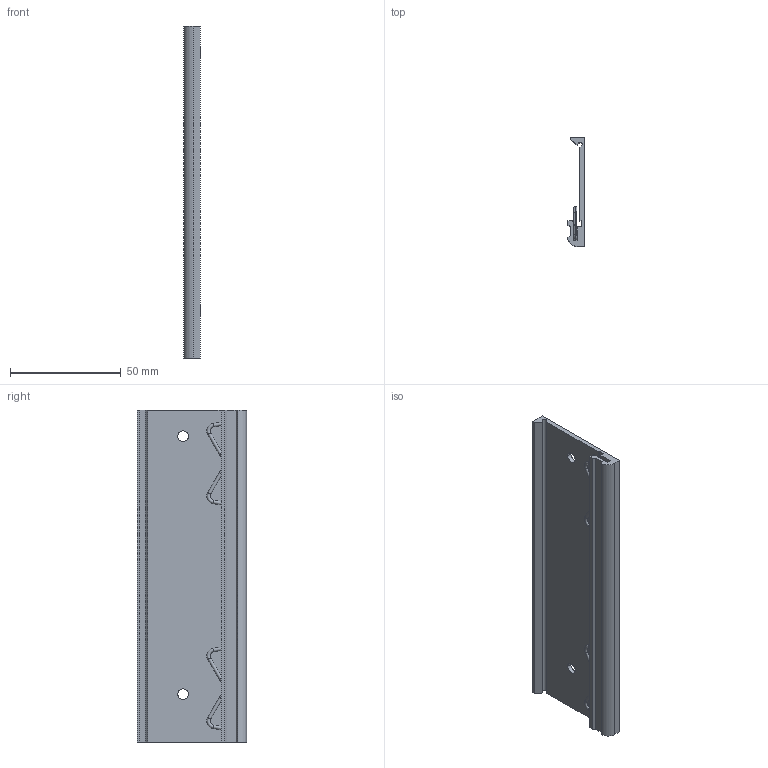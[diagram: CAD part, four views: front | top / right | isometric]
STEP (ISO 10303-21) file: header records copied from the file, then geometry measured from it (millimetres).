
FILE_DESCRIPTION((''),'2;1');
FILE_NAME('CU_DIN_SMASHER_4SLOT_W','2015-11-20T',('jbuhisan'),(''),'PRO/ENGINEER BY PARAMETRIC TECHNOLOGY CORPORATION, 2014000','PRO/ENGINEER BY PARAMETRIC TECHNOLOGY CORPORATION, 2014000','');
FILE_SCHEMA(('CONFIG_CONTROL_DESIGN'));
Length unit declared in the file: inch
Products named in the file (1): CU_DIN_SMASHER_4SLOT_W
Bounding box: 7.49 x 49.33 x 150 mm (x, y, z)
Volume: 21172.3 mm3; surface area: 22169.5 mm2
Topology: 3 solids, 3 shells, 76 faces, 170 edges, 100 vertices
Faces by surface type: cylinder 31, plane 25, torus 20
Entity records: 2140 total; most frequent: DIRECTION 404, CARTESIAN_POINT 346, ORIENTED_EDGE 340, EDGE_CURVE 170, AXIS2_PLACEMENT_3D 158, VERTEX_POINT 100, VECTOR 88, LINE 88
